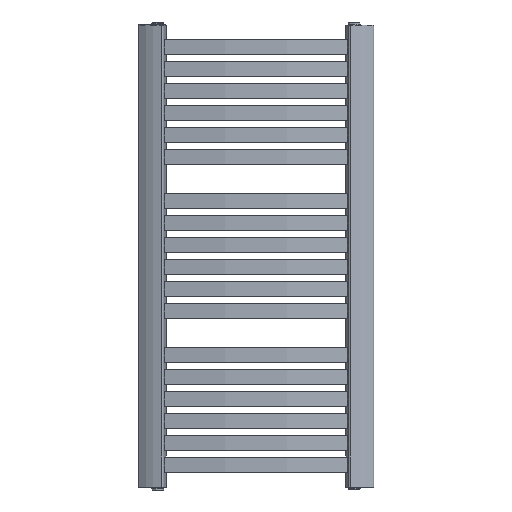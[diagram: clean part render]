
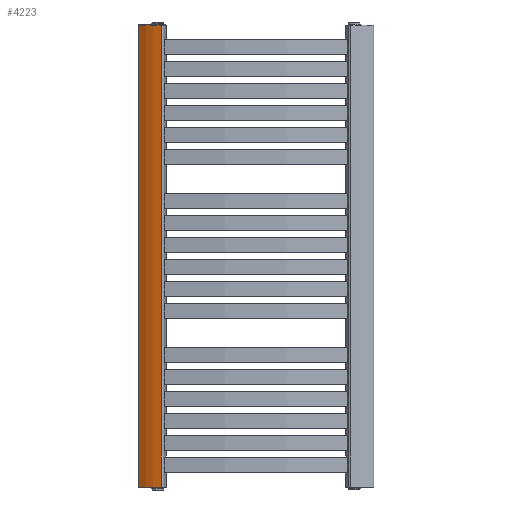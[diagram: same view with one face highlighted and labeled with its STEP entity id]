
A CAD part, left-side view. The second image highlights one B-rep face of the part: STEP entity #4223.
In plain terms, the highlighted cylindrical face has radius 101.419 mm (diameter 202.839 mm), a partial arc.
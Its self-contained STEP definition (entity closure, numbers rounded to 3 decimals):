
#371=CIRCLE('',#4655,101.419);
#372=CIRCLE('',#4656,101.419);
#490=CYLINDRICAL_SURFACE('',#4654,101.419);
#680=FACE_OUTER_BOUND('',#912,.T.);
#912=EDGE_LOOP('',(#3619,#3620,#3621,#3622));
#1319=LINE('',#7079,#1707);
#1325=LINE('',#7106,#1713);
#1707=VECTOR('',#5781,10.);
#1713=VECTOR('',#5813,10.);
#2089=VERTEX_POINT('',#7072);
#2092=VERTEX_POINT('',#7077);
#2099=VERTEX_POINT('',#7102);
#2100=VERTEX_POINT('',#7104);
#2656=EDGE_CURVE('',#2089,#2092,#1319,.T.);
#2668=EDGE_CURVE('',#2099,#2089,#371,.T.);
#2669=EDGE_CURVE('',#2100,#2092,#372,.T.);
#2670=EDGE_CURVE('',#2099,#2100,#1325,.T.);
#3619=ORIENTED_EDGE('',*,*,#2668,.T.);
#3620=ORIENTED_EDGE('',*,*,#2656,.T.);
#3621=ORIENTED_EDGE('',*,*,#2669,.F.);
#3622=ORIENTED_EDGE('',*,*,#2670,.F.);
#4223=ADVANCED_FACE('',(#680),#490,.T.);
#4654=AXIS2_PLACEMENT_3D('',#7101,#5807,#5808);
#4655=AXIS2_PLACEMENT_3D('',#7103,#5809,#5810);
#4656=AXIS2_PLACEMENT_3D('',#7105,#5811,#5812);
#5781=DIRECTION('',(0.,0.,1.));
#5807=DIRECTION('center_axis',(0.,0.,1.));
#5808=DIRECTION('ref_axis',(1.,-0.015,0.));
#5809=DIRECTION('center_axis',(0.,0.,1.));
#5810=DIRECTION('ref_axis',(1.,-0.015,0.));
#5811=DIRECTION('center_axis',(0.,0.,1.));
#5812=DIRECTION('ref_axis',(1.,-0.015,0.));
#5813=DIRECTION('',(0.,0.,1.));
#7072=CARTESIAN_POINT('',(5.308,22.798,0.));
#7077=CARTESIAN_POINT('',(5.308,22.798,945.));
#7079=CARTESIAN_POINT('',(5.308,22.798,0.));
#7101=CARTESIAN_POINT('Origin',(-84.408,-24.499,0.));
#7102=CARTESIAN_POINT('',(17.,-26.062,0.));
#7103=CARTESIAN_POINT('Origin',(-84.408,-24.499,0.));
#7104=CARTESIAN_POINT('',(17.,-26.062,945.));
#7105=CARTESIAN_POINT('Origin',(-84.408,-24.499,945.));
#7106=CARTESIAN_POINT('',(17.,-26.062,0.));
